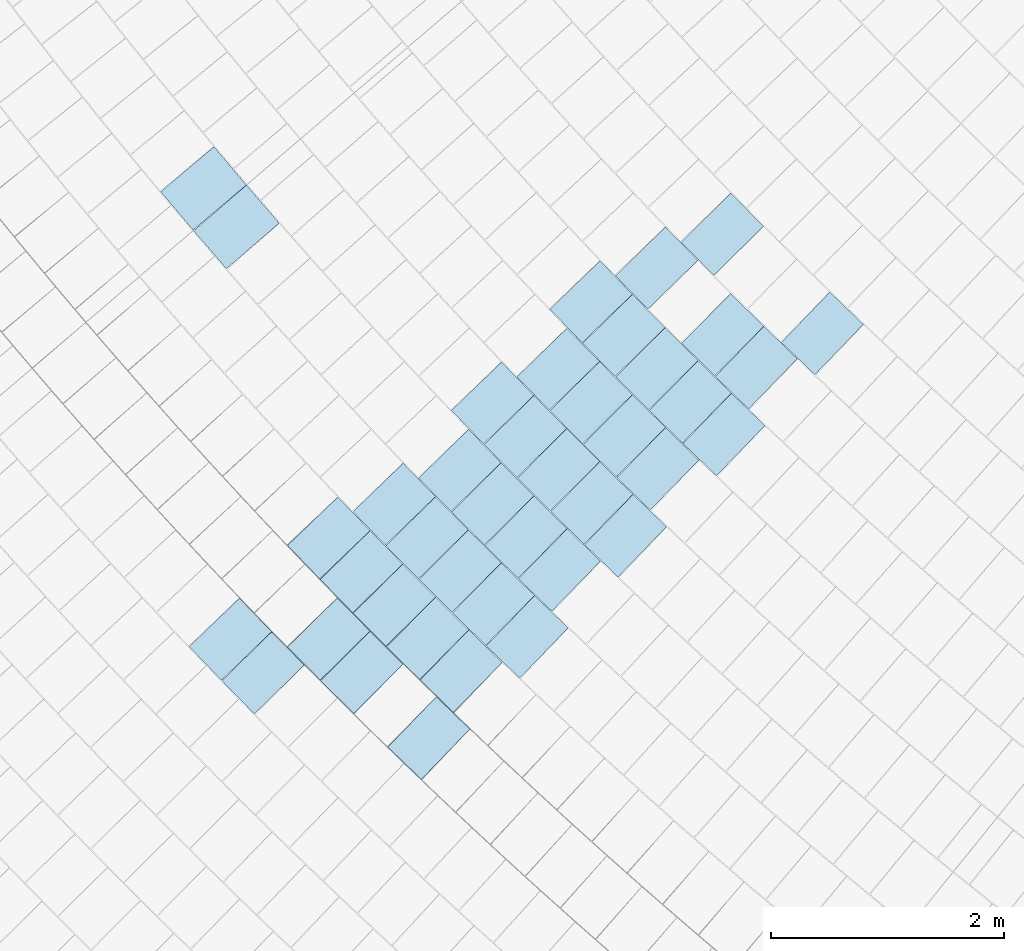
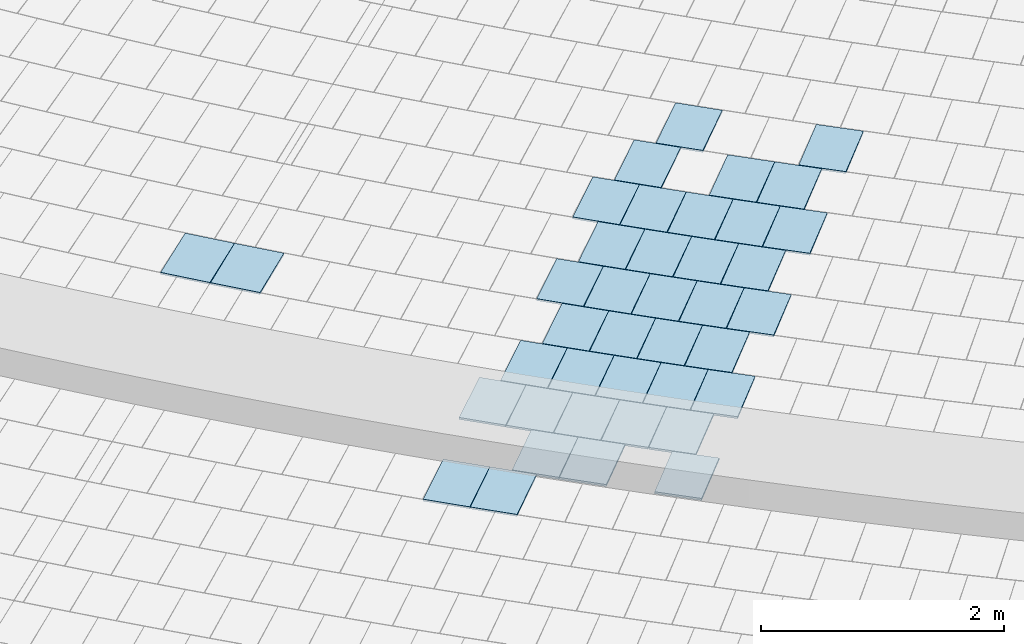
# One storey, part 6 of 438: 40 slabs.
"""IFC2X3 building model written with IfcOpenShell, lengths in millimetres."""

from ifc_helpers import new_model, entity, si_unit, converted_unit, derived_unit, direction, frame, origin, place, context, subcontext, project, spatial, polyline, outline, extrude, material, layer, layer_set, layer_usage, type_object, element, save


model = new_model("IFC2X3")

# Units and contexts
model_context = context("Model", 3, precision=0.01, world=origin(), true_north=direction((6.123031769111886e-17, 1.0)))
body_context = subcontext(model_context, "Body", "Model", "MODEL_VIEW")
ifc_project = project(units=[si_unit("LENGTHUNIT", "METRE", prefix="MILLI"), si_unit("AREAUNIT", "SQUARE_METRE"), si_unit("VOLUMEUNIT", "CUBIC_METRE"), converted_unit("PLANEANGLEUNIT", "DEGREE", entity("IfcRatioMeasure", 0.017453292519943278), si_unit("PLANEANGLEUNIT", "RADIAN"), dimensions=[0, 0, 0, 0, 0, 0, 0]), si_unit("MASSUNIT", "GRAM", prefix="KILO"), derived_unit("MASSDENSITYUNIT", [(si_unit("MASSUNIT", "GRAM", prefix="KILO"), 1), (si_unit("LENGTHUNIT", "METRE"), -3)]), derived_unit("MOMENTOFINERTIAUNIT", [(si_unit("LENGTHUNIT", "METRE"), 4)]), si_unit("TIMEUNIT", "SECOND"), si_unit("FREQUENCYUNIT", "HERTZ"), si_unit("THERMODYNAMICTEMPERATUREUNIT", "DEGREE_CELSIUS"), derived_unit("THERMALTRANSMITTANCEUNIT", [(si_unit("MASSUNIT", "GRAM", prefix="KILO"), 1), (si_unit("THERMODYNAMICTEMPERATUREUNIT", "KELVIN"), -1), (si_unit("TIMEUNIT", "SECOND"), -3)]), derived_unit("THERMALCONDUCTANCEUNIT", [(si_unit("MASSUNIT", "GRAM", prefix="KILO"), 1), (si_unit("LENGTHUNIT", "METRE"), 1), (si_unit("THERMODYNAMICTEMPERATUREUNIT", "KELVIN"), -1), (si_unit("TIMEUNIT", "SECOND"), -3)]), derived_unit("VOLUMETRICFLOWRATEUNIT", [(si_unit("LENGTHUNIT", "METRE"), 3), (si_unit("TIMEUNIT", "SECOND"), -1)]), derived_unit("MASSFLOWRATEUNIT", [(si_unit("MASSUNIT", "GRAM", prefix="KILO"), 1), (si_unit("TIMEUNIT", "SECOND"), -1)]), derived_unit("ROTATIONALFREQUENCYUNIT", [(si_unit("TIMEUNIT", "SECOND"), -1)]), si_unit("ELECTRICCURRENTUNIT", "AMPERE"), si_unit("ELECTRICVOLTAGEUNIT", "VOLT"), si_unit("POWERUNIT", "WATT"), converted_unit("FORCEUNIT", "KIP", entity("IfcRatioMeasure", 2.088543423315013e-05), si_unit("FORCEUNIT", "NEWTON"), dimensions=[1, 1, -2, 0, 0, 0, 0]), si_unit("ILLUMINANCEUNIT", "LUX"), si_unit("LUMINOUSFLUXUNIT", "LUMEN"), si_unit("LUMINOUSINTENSITYUNIT", "CANDELA"), derived_unit("USERDEFINED", [(si_unit("MASSUNIT", "GRAM", prefix="KILO"), -1), (si_unit("LENGTHUNIT", "METRE"), -2), (si_unit("TIMEUNIT", "SECOND"), 3), (si_unit("LUMINOUSFLUXUNIT", "LUMEN"), 1)]), derived_unit("USERDEFINED", [(si_unit("MASSUNIT", "GRAM", prefix="KILO"), 1), (si_unit("LENGTHUNIT", "METRE"), 3), (si_unit("TIMEUNIT", "SECOND"), -3), (si_unit("ELECTRICCURRENTUNIT", "AMPERE"), -2)]), derived_unit("USERDEFINED", [(si_unit("LENGTHUNIT", "METRE"), 2), (si_unit("TIMEUNIT", "SECOND"), -2)]), derived_unit("SOUNDPOWERUNIT", [(si_unit("MASSUNIT", "GRAM", prefix="KILO"), 1), (si_unit("LENGTHUNIT", "METRE"), 2), (si_unit("TIMEUNIT", "SECOND"), -3)]), derived_unit("SOUNDPRESSUREUNIT", [(si_unit("MASSUNIT", "GRAM", prefix="KILO"), 1), (si_unit("LENGTHUNIT", "METRE"), -1), (si_unit("TIMEUNIT", "SECOND"), -2)]), derived_unit("LINEARVELOCITYUNIT", [(si_unit("LENGTHUNIT", "METRE"), 1), (si_unit("TIMEUNIT", "SECOND"), -1)]), si_unit("PRESSUREUNIT", "PASCAL"), derived_unit("USERDEFINED", [(si_unit("LENGTHUNIT", "METRE"), -2), (si_unit("MASSUNIT", "GRAM", prefix="KILO"), 1), (si_unit("TIMEUNIT", "SECOND"), -2)]), derived_unit("LINEARFORCEUNIT", [(si_unit("MASSUNIT", "GRAM", prefix="KILO"), 1), (si_unit("LENGTHUNIT", "METRE"), 1), (si_unit("TIMEUNIT", "SECOND"), -2), (si_unit("LENGTHUNIT", "METRE"), -1)]), derived_unit("PLANARFORCEUNIT", [(si_unit("MASSUNIT", "GRAM", prefix="KILO"), 1), (si_unit("LENGTHUNIT", "METRE"), 1), (si_unit("TIMEUNIT", "SECOND"), -2), (si_unit("LENGTHUNIT", "METRE"), -2)]), derived_unit("SPECIFICHEATCAPACITYUNIT", [(si_unit("LENGTHUNIT", "METRE"), 2), (si_unit("TIMEUNIT", "SECOND"), -2), (si_unit("THERMODYNAMICTEMPERATUREUNIT", "KELVIN"), -1)]), derived_unit("VAPORPERMEABILITYUNIT", [(si_unit("TIMEUNIT", "SECOND"), 1), (si_unit("LENGTHUNIT", "METRE"), -1)]), derived_unit("DYNAMICVISCOSITYUNIT", [(si_unit("MASSUNIT", "GRAM", prefix="KILO"), 1), (si_unit("LENGTHUNIT", "METRE"), -1), (si_unit("TIMEUNIT", "SECOND"), -1)]), derived_unit("THERMALEXPANSIONCOEFFICIENTUNIT", [(si_unit("THERMODYNAMICTEMPERATUREUNIT", "KELVIN"), -1)])], contexts=[model_context])

# Site, building, storey
site_placement = place(None, frame((0.0, 0.0, 0.0), z_axis=(0.0, 0.0, 1.0), x_axis=(0.8191520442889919, 0.5735764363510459, 0.0)))
site = spatial("IfcSite", under=ifc_project, at=site_placement, Name="Default", CompositionType="ELEMENT")
building_placement = place(site_placement, origin())
building = spatial("IfcBuilding", under=site, at=building_placement, CompositionType="ELEMENT")
storey_placement = place(building_placement, origin())
storey = spatial("IfcBuildingStorey", under=building, at=storey_placement, Name="PLAN", CompositionType="ELEMENT", Elevation=0.0)

# Slabs
ifc_material = material(Name="Paint-01")
ifc_layer = layer(ifc_material, 20.00000000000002)
ifc_layer_set = layer_set([ifc_layer], Name="Floor:Slab-179:1000")
ifc_layer_usage = layer_usage(ifc_layer_set, "AXIS3", "POSITIVE", 0.0)
slab_type = type_object("IfcSlabType", Name="Floor:Slab-179:1000", PredefinedType="FLOOR", material=ifc_layer_set)
slab_1_placement = place(storey_placement, origin())
element("IfcSlab", 1, at=slab_1_placement, inside=storey, type_object=slab_type, material=ifc_layer_usage, Name="Floor:Slab-179:1000", ObjectType="Floor:Slab-179:1000", PredefinedType="FLOOR", context=body_context, shape_type="SweptSolid", body=[
    extrude(outline(polyline([(-300.0, -215.73772442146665), (299.9999975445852, -215.73772442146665), (300.0, 215.73772442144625), (-299.9999975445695, 215.7377244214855), (-300.0, -215.73772442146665)])), frame((-86225.26986936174, -72148.73846411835, 520.0), z_axis=(0.0, 0.0, -1.0), x_axis=(0.9958690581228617, 0.09080098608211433, 0.0)), (0.0, 0.0, 1.0), 20.000000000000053),
])
slab_2_placement = place(storey_placement, origin())
element("IfcSlab", 2, at=slab_2_placement, inside=storey, type_object=slab_type, material=ifc_layer_usage, Name="Floor:Slab-179:1000", ObjectType="Floor:Slab-179:1000", PredefinedType="FLOOR", context=body_context, shape_type="SweptSolid", body=[
    extrude(outline(polyline([(-200.0000045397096, -299.9999986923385), (200.0000013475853, -299.9999986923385), (200.0000045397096, 299.9999986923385), (-200.00000134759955, 299.99999869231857), (-200.0000045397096, -299.9999986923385)])), frame((-82807.1541595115, -75021.93635271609, 520.0), z_axis=(0.0, 0.0, -1.0), x_axis=(0.1642521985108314, -0.9864183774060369, 0.0)), (0.0, 0.0, 1.0), 20.000000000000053),
])
slab_3_placement = place(storey_placement, origin())
element("IfcSlab", 3, at=slab_3_placement, inside=storey, type_object=slab_type, material=ifc_layer_usage, Name="Floor:Slab-179:1000", ObjectType="Floor:Slab-179:1000", PredefinedType="FLOOR", context=body_context, shape_type="SweptSolid", body=[
    extrude(outline(polyline([(-300.0, -200.00000294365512), (299.9999976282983, -200.00000294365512), (300.0, 200.00000294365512), (-299.999997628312, 200.0000029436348), (-300.0, -200.00000294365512)])), frame((-82591.97574392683, -76210.99192174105, 520.0), z_axis=(0.0, 0.0, -1.0), x_axis=(0.9814223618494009, 0.19185970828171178, 0.0)), (0.0, 0.0, 1.0), 20.000000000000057),
])
slab_4_placement = place(storey_placement, origin())
element("IfcSlab", 4, at=slab_4_placement, inside=storey, type_object=slab_type, material=ifc_layer_usage, Name="Floor:Slab-179:1000", ObjectType="Floor:Slab-179:1000", PredefinedType="FLOOR", context=body_context, shape_type="SweptSolid", body=[
    extrude(outline(polyline([(-200.00000453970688, -299.9999986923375), (200.00000134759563, -299.9999986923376), (200.0000045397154, 299.9999986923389), (-200.0000013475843, 299.99999869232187), (-200.00000453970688, -299.9999986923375)])), frame((-83434.29083154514, -74936.57759737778, 520.0), z_axis=(0.0, 0.0, -1.0), x_axis=(0.1600225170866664, -0.9871133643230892, 0.0)), (0.0, 0.0, 1.0), 19.999999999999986),
])
slab_5_placement = place(storey_placement, origin())
element("IfcSlab", 5, at=slab_5_placement, inside=storey, type_object=slab_type, material=ifc_layer_usage, Name="Floor:Slab-179:1000", ObjectType="Floor:Slab-179:1000", PredefinedType="FLOOR", context=body_context, shape_type="SweptSolid", body=[
    extrude(outline(polyline([(-200.00000453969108, -299.9999986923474), (200.00000134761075, -299.9999986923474), (200.000004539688, 299.99999869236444), (-200.00000134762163, 299.99999869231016), (-200.00000453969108, -299.9999986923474)])), frame((-83298.05482873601, -75730.53642324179, 520.0), z_axis=(0.0, 0.0, -1.0), x_axis=(0.1782013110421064, -0.983994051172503, 0.0)), (0.0, 0.0, 1.0), 20.000000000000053),
])
slab_6_placement = place(storey_placement, origin())
element("IfcSlab", 6, at=slab_6_placement, inside=storey, type_object=slab_type, material=ifc_layer_usage, Name="Floor:Slab-179:1000", ObjectType="Floor:Slab-179:1000", PredefinedType="FLOOR", context=body_context, shape_type="SweptSolid", body=[
    extrude(outline(polyline([(-200.0000045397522, -299.9999986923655), (200.0000013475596, -299.99999869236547), (200.00000453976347, 299.9999986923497), (-200.000001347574, 299.9999986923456), (-200.0000045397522, -299.9999986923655)])), frame((-84060.6298183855, -74851.26640552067, 520.0), z_axis=(0.0, 0.0, -1.0), x_axis=(0.1559094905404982, -0.9877713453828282, 0.0)), (0.0, 0.0, 1.0), 20.000000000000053),
])
slab_7_placement = place(storey_placement, origin())
element("IfcSlab", 7, at=slab_7_placement, inside=storey, type_object=slab_type, material=ifc_layer_usage, Name="Floor:Slab-179:1000", ObjectType="Floor:Slab-179:1000", PredefinedType="FLOOR", context=body_context, shape_type="SweptSolid", body=[
    extrude(outline(polyline([(-200.00000453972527, -299.99999869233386), (200.00000134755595, -299.99999869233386), (200.0000045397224, 299.9999986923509), (-200.00000134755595, 299.99999869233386), (-200.00000453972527, -299.99999869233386)])), frame((-83996.03293466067, -75248.7763406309, 520.0), z_axis=(0.0, 0.0, -1.0), x_axis=(0.16488667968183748, -0.9863125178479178, 0.0)), (0.0, 0.0, 1.0), 20.000000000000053),
])
slab_8_placement = place(storey_placement, origin())
element("IfcSlab", 8, at=slab_8_placement, inside=storey, type_object=slab_type, material=ifc_layer_usage, Name="Floor:Slab-179:1000", ObjectType="Floor:Slab-179:1000", PredefinedType="FLOOR", context=body_context, shape_type="SweptSolid", body=[
    extrude(outline(polyline([(-200.00000453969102, -299.99999869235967), (200.00000134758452, -299.99999869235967), (200.00000453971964, 299.99999869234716), (-200.0000013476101, 299.9999986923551), (-200.00000453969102, -299.99999869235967)])), frame((-83927.82342728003, -75645.6823358, 520.0), z_axis=(0.0, 0.0, -1.0), x_axis=(0.1738502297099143, -0.9847721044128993, 0.0)), (0.0, 0.0, 1.0), 19.99999999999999),
])
slab_9_placement = place(storey_placement, origin())
element("IfcSlab", 9, at=slab_9_placement, inside=storey, type_object=slab_type, material=ifc_layer_usage, Name="Floor:Slab-179:1000", ObjectType="Floor:Slab-179:1000", PredefinedType="FLOOR", context=body_context, shape_type="SweptSolid", body=[
    extrude(outline(polyline([(-300.0, -200.00000294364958), (299.99999762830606, -200.0000029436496), (300.0, 200.00000294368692), (-299.9999976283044, 200.00000294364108), (-300.0, -200.00000294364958)])), frame((-83780.58940808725, -76437.55123615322, 520.0), z_axis=(0.0, 0.0, -1.0), x_axis=(0.9814470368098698, 0.19173344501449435, 0.0)), (0.0, 0.0, 1.0), 20.000000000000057),
])
slab_10_placement = place(storey_placement, origin())
element("IfcSlab", 10, at=slab_10_placement, inside=storey, type_object=slab_type, material=ifc_layer_usage, Name="Floor:Slab-179:1000", ObjectType="Floor:Slab-179:1000", PredefinedType="FLOOR", context=body_context, shape_type="SweptSolid", body=[
    extrude(outline(polyline([(-200.0000045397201, -299.9999986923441), (200.00000134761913, -299.9999986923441), (200.0000045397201, 299.9999986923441), (-200.00000134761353, 299.9999986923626), (-200.0000045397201, -299.9999986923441)])), frame((-84556.76090605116, -75560.69439219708, 520.0), z_axis=(0.0, 0.0, -1.0), x_axis=(0.1696134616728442, -0.9855106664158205, 0.0)), (0.0, 0.0, 1.0), 19.99999999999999),
])
slab_11_placement = place(storey_placement, origin())
element("IfcSlab", 11, at=slab_11_placement, inside=storey, type_object=slab_type, material=ifc_layer_usage, Name="Floor:Slab-179:1000", ObjectType="Floor:Slab-179:1000", PredefinedType="FLOOR", context=body_context, shape_type="SweptSolid", body=[
    extrude(outline(polyline([(-200.00000453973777, -299.9999986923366), (200.0000013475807, -299.9999986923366), (200.00000453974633, 299.999998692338), (-200.00000134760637, 299.99999869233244), (-200.00000453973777, -299.9999986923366)])), frame((-84623.2812407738, -75163.53923175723, 520.0), z_axis=(0.0, 0.0, -1.0), x_axis=(0.1607651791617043, -0.9869926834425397, 0.0)), (0.0, 0.0, 1.0), 20.000000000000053),
])
slab_12_placement = place(storey_placement, origin())
element("IfcSlab", 12, at=slab_12_placement, inside=storey, type_object=slab_type, material=ifc_layer_usage, Name="Floor:Slab-179:1000", ObjectType="Floor:Slab-179:1000", PredefinedType="FLOOR", context=body_context, shape_type="SweptSolid", body=[
    extrude(outline(polyline([(-200.00000453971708, -299.99999869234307), (200.00000134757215, -299.9999986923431), (200.00000453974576, 299.9999986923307), (-200.00000134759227, 299.99999869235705), (-200.00000453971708, -299.99999869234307)])), frame((-84486.68019198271, -75957.23678578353, 520.0), z_axis=(0.0, 0.0, -1.0), x_axis=(0.17844809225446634, -0.983949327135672, 0.0)), (0.0, 0.0, 1.0), 20.000000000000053),
])
slab_13_placement = place(storey_placement, origin())
element("IfcSlab", 13, at=slab_13_placement, inside=storey, type_object=slab_type, material=ifc_layer_usage, Name="Floor:Slab-179:1000", ObjectType="Floor:Slab-179:1000", PredefinedType="FLOOR", context=body_context, shape_type="SweptSolid", body=[
    extrude(outline(polyline([(-200.0000045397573, -299.9999986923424), (200.0000013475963, -299.99999869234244), (200.0000045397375, 299.9999986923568), (-200.00000134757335, 299.9999986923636), (-200.0000045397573, -299.9999986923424)])), frame((-85249.77183569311, -75078.21260436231, 520.0), z_axis=(0.0, 0.0, -1.0), x_axis=(0.15675133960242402, -0.9876381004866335, 0.0)), (0.0, 0.0, 1.0), 20.000000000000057),
])
slab_14_placement = place(storey_placement, origin())
element("IfcSlab", 14, at=slab_14_placement, inside=storey, type_object=slab_type, material=ifc_layer_usage, Name="Floor:Slab-179:1000", ObjectType="Floor:Slab-179:1000", PredefinedType="FLOOR", context=body_context, shape_type="SweptSolid", body=[
    extrude(outline(polyline([(-200.00000453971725, -299.99999869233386), (200.00000134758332, -299.99999869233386), (200.0000045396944, 299.9999986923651), (-200.0000013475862, 299.99999869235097), (-200.00000453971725, -299.99999869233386)])), frame((-85184.89629707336, -75475.60335517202, 520.0), z_axis=(0.0, 0.0, -1.0), x_axis=(0.16548712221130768, -0.9862119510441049, 0.0)), (0.0, 0.0, 1.0), 20.000000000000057),
])
slab_15_placement = place(storey_placement, origin())
element("IfcSlab", 15, at=slab_15_placement, inside=storey, type_object=slab_type, material=ifc_layer_usage, Name="Floor:Slab-179:1000", ObjectType="Floor:Slab-179:1000", PredefinedType="FLOOR", context=body_context, shape_type="SweptSolid", body=[
    extrude(outline(polyline([(-200.00000453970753, -299.9999986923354), (200.0000013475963, -299.9999986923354), (200.00000453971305, 299.999998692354), (-200.00000134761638, 299.9999986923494), (-200.00000453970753, -299.9999986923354)])), frame((-85116.50585820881, -75872.40430301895, 520.0), z_axis=(0.0, 0.0, -1.0), x_axis=(0.17420993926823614, -0.9847085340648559, 0.0)), (0.0, 0.0, 1.0), 20.000000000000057),
])
slab_16_placement = place(storey_placement, origin())
element("IfcSlab", 16, at=slab_16_placement, inside=storey, type_object=slab_type, material=ifc_layer_usage, Name="Floor:Slab-179:1000", ObjectType="Floor:Slab-179:1000", PredefinedType="FLOOR", context=body_context, shape_type="SweptSolid", body=[
    extrude(outline(polyline([(-300.0, -200.00000294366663), (299.99999762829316, -200.00000294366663), (300.0, 200.00000294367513), (-299.9999976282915, 200.0000029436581), (-300.0, -200.00000294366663)])), frame((-84969.20198720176, -76664.11248695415, 520.0), z_axis=(0.0, 0.0, -1.0), x_axis=(0.9814703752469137, 0.1916139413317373, 0.0)), (0.0, 0.0, 1.0), 20.000000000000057),
])
slab_17_placement = place(storey_placement, origin())
element("IfcSlab", 17, at=slab_17_placement, inside=storey, type_object=slab_type, material=ifc_layer_usage, Name="Floor:Slab-179:1000", ObjectType="Floor:Slab-179:1000", PredefinedType="FLOOR", context=body_context, shape_type="SweptSolid", body=[
    extrude(outline(polyline([(-215.73772601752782, -299.9999986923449), (215.73772282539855, -299.9999986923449), (215.73772601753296, 299.99999869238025), (-215.73772282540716, 299.999998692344), (-215.73772601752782, -299.9999986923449)])), frame((-86183.62996440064, -72581.24127451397, 520.0), z_axis=(0.0, 0.0, -1.0), x_axis=(0.100863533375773, -0.9949002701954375, 0.0)), (0.0, 0.0, 1.0), 19.999999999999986),
])
slab_18_placement = place(storey_placement, origin())
element("IfcSlab", 18, at=slab_18_placement, inside=storey, type_object=slab_type, material=ifc_layer_usage, Name="Floor:Slab-179:1000", ObjectType="Floor:Slab-179:1000", PredefinedType="FLOOR", context=body_context, shape_type="SweptSolid", body=[
    extrude(outline(polyline([(-200.0000045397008, -299.9999986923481), (200.00000134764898, -299.9999986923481), (200.0000045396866, 299.9999986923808), (-200.00000134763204, 299.99999869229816), (-200.0000045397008, -299.9999986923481)])), frame((-85812.26104829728, -75390.41655672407, 520.0), z_axis=(0.0, 0.0, -1.0), x_axis=(0.16146702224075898, -0.9868781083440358, 0.0)), (0.0, 0.0, 1.0), 20.000000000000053),
])
slab_19_placement = place(storey_placement, origin())
element("IfcSlab", 19, at=slab_19_placement, inside=storey, type_object=slab_type, material=ifc_layer_usage, Name="Floor:Slab-179:1000", ObjectType="Floor:Slab-179:1000", PredefinedType="FLOOR", context=body_context, shape_type="SweptSolid", body=[
    extrude(outline(polyline([(-200.00000453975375, -299.99999869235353), (200.00000134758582, -299.9999986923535), (200.00000453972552, 299.9999986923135), (-200.0000013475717, 299.99999869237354), (-200.00000453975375, -299.99999869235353)])), frame((-85745.51712052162, -75787.46230494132, 520.0), z_axis=(0.0, 0.0, -1.0), x_axis=(0.1700806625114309, -0.9854301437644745, 0.0)), (0.0, 0.0, 1.0), 20.000000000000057),
])
slab_20_placement = place(storey_placement, origin())
element("IfcSlab", 20, at=slab_20_placement, inside=storey, type_object=slab_type, material=ifc_layer_usage, Name="Floor:Slab-179:1000", ObjectType="Floor:Slab-179:1000", PredefinedType="FLOOR", context=body_context, shape_type="SweptSolid", body=[
    extrude(outline(polyline([(-200.0000045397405, -299.9999986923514), (200.00000134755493, -299.9999986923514), (200.00000453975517, 299.99999869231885), (-200.0000013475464, 299.99999869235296), (-200.0000045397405, -299.9999986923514)])), frame((-85675.3077777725, -76183.90993863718, 520.0), z_axis=(0.0, 0.0, -1.0), x_axis=(0.1786813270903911, -0.9839069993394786, 0.0)), (0.0, 0.0, 1.0), 20.000000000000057),
])
slab_21_placement = place(storey_placement, origin())
element("IfcSlab", 21, at=slab_21_placement, inside=storey, type_object=slab_type, material=ifc_layer_usage, Name="Floor:Slab-179:1000", ObjectType="Floor:Slab-179:1000", PredefinedType="FLOOR", context=body_context, shape_type="SweptSolid", body=[
    extrude(outline(polyline([(-200.0000045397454, -299.99999869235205), (200.00000134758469, -299.9999986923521), (200.000004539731, 299.99999869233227), (-200.00000134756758, 299.99999869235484), (-200.0000045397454, -299.99999869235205)])), frame((-86438.88499998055, -75305.14076651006, 520.0), z_axis=(0.0, 0.0, -1.0), x_axis=(0.1575491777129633, -0.9875111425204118, 0.0)), (0.0, 0.0, 1.0), 20.000000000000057),
])
slab_22_placement = place(storey_placement, origin())
element("IfcSlab", 22, at=slab_22_placement, inside=storey, type_object=slab_type, material=ifc_layer_usage, Name="Floor:Slab-179:1000", ObjectType="Floor:Slab-179:1000", PredefinedType="FLOOR", context=body_context, shape_type="SweptSolid", body=[
    extrude(outline(polyline([(-200.00000453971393, -299.9999986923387), (200.00000134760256, -299.9999986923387), (200.00000453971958, 299.99999869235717), (-200.00000134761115, 299.9999986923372), (-200.00000453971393, -299.9999986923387)])), frame((-86373.74546925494, -75702.41836356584, 520.0), z_axis=(0.0, 0.0, -1.0), x_axis=(0.16605619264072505, -0.9861162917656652, 0.0)), (0.0, 0.0, 1.0), 20.000000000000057),
])
slab_23_placement = place(storey_placement, origin())
element("IfcSlab", 23, at=slab_23_placement, inside=storey, type_object=slab_type, material=ifc_layer_usage, Name="Floor:Slab-179:1000", ObjectType="Floor:Slab-179:1000", PredefinedType="FLOOR", context=body_context, shape_type="SweptSolid", body=[
    extrude(outline(polyline([(-200.00000453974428, -299.9999986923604), (200.00000134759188, -299.9999986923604), (200.00000453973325, 299.9999986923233), (-200.00000134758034, 299.9999986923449), (-200.00000453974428, -299.9999986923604)])), frame((-86305.18361565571, -76099.11966154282, 520.0), z_axis=(0.0, 0.0, -1.0), x_axis=(0.17455086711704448, -0.9846481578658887, 0.0)), (0.0, 0.0, 1.0), 20.000000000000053),
])
slab_24_placement = place(storey_placement, origin())
element("IfcSlab", 24, at=slab_24_placement, inside=storey, type_object=slab_type, material=ifc_layer_usage, Name="Floor:Slab-179:1000", ObjectType="Floor:Slab-179:1000", PredefinedType="FLOOR", context=body_context, shape_type="SweptSolid", body=[
    extrude(outline(polyline([(-300.0, -200.00000294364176), (299.99999762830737, -200.0000029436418), (300.0, 200.00000294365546), (-299.999997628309, 200.00000294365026), (-300.0, -200.00000294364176)])), frame((-86157.8135739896, -76890.67548440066, 520.0), z_axis=(0.0, 0.0, -1.0), x_axis=(0.9814924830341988, 0.1915006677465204, 0.0)), (0.0, 0.0, 1.0), 19.999999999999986),
])
slab_25_placement = place(storey_placement, origin())
element("IfcSlab", 25, at=slab_25_placement, inside=storey, type_object=slab_type, material=ifc_layer_usage, Name="Floor:Slab-179:1000", ObjectType="Floor:Slab-179:1000", PredefinedType="FLOOR", context=body_context, shape_type="SweptSolid", body=[
    extrude(outline(polyline([(-300.0, -200.00000294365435), (299.9999976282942, -200.00000294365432), (300.0, 200.0000029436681), (-299.9999976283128, 200.00000294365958), (-300.0, -200.00000294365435)])), frame((-84413.04473879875, -76353.13449783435, 520.0), z_axis=(0.0, 0.0, -1.0), x_axis=(0.9823087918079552, 0.18726835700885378, 0.0)), (0.0, 0.0, 1.0), 20.000000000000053),
])
slab_26_placement = place(storey_placement, origin())
element("IfcSlab", 26, at=slab_26_placement, inside=storey, type_object=slab_type, material=ifc_layer_usage, Name="Floor:Slab-179:1000", ObjectType="Floor:Slab-179:1000", PredefinedType="FLOOR", context=body_context, shape_type="SweptSolid", body=[
    extrude(outline(polyline([(-300.0, -200.00000294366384), (299.9999976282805, -200.00000294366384), (300.0, 200.0000029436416), (-299.9999976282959, 200.00000294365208), (-300.0, -200.00000294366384)])), frame((-83224.45110163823, -76126.53978099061, 520.0), z_axis=(0.0, 0.0, -1.0), x_axis=(0.9823087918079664, 0.18726835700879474, 0.0)), (0.0, 0.0, 1.0), 19.99999999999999),
])
slab_27_placement = place(storey_placement, origin())
element("IfcSlab", 27, at=slab_27_placement, inside=storey, type_object=slab_type, material=ifc_layer_usage, Name="Floor:Slab-179:1000", ObjectType="Floor:Slab-179:1000", PredefinedType="FLOOR", context=body_context, shape_type="SweptSolid", body=[
    extrude(outline(polyline([(-300.0, -200.00000294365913), (299.9999976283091, -200.00000294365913), (300.0, 200.00000294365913), (-299.9999976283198, 200.00000294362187), (-300.0, -200.00000294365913)])), frame((-85044.60587689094, -76268.5843618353, 520.0), z_axis=(0.0, 0.0, -1.0), x_axis=(0.9831279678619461, 0.1829191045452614, 0.0)), (0.0, 0.0, 1.0), 19.99999999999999),
])
slab_28_placement = place(storey_placement, origin())
element("IfcSlab", 28, at=slab_28_placement, inside=storey, type_object=slab_type, material=ifc_layer_usage, Name="Floor:Slab-179:1000", ObjectType="Floor:Slab-179:1000", PredefinedType="FLOOR", context=body_context, shape_type="SweptSolid", body=[
    extrude(outline(polyline([(-300.0, -200.00000294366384), (299.99999762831, -200.00000294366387), (300.0, 200.00000294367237), (-299.99999762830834, 200.00000294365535), (-300.0, -200.00000294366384)])), frame((-85601.6383759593, -76579.72921467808, 520.0), z_axis=(0.0, 0.0, -1.0), x_axis=(0.9823087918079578, 0.18726835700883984, 0.0)), (0.0, 0.0, 1.0), 19.999999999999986),
])
slab_29_placement = place(storey_placement, origin())
element("IfcSlab", 29, at=slab_29_placement, inside=storey, type_object=slab_type, material=ifc_layer_usage, Name="Floor:Slab-179:1000", ObjectType="Floor:Slab-179:1000", PredefinedType="FLOOR", context=body_context, shape_type="SweptSolid", body=[
    extrude(outline(polyline([(-300.0, -200.0000029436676), (299.999997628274, -200.00000294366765), (300.0, 200.0000029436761), (-299.99999762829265, 200.00000294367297), (-300.0, -200.0000029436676)])), frame((-86233.20453390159, -76495.21518203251, 520.0), z_axis=(0.0, 0.0, -1.0), x_axis=(0.9831068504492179, 0.18303256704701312, 0.0)), (0.0, 0.0, 1.0), 19.99999999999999),
])
slab_30_placement = place(storey_placement, origin())
element("IfcSlab", 30, at=slab_30_placement, inside=storey, type_object=slab_type, material=ifc_layer_usage, Name="Floor:Slab-179:1000", ObjectType="Floor:Slab-179:1000", PredefinedType="FLOOR", context=body_context, shape_type="SweptSolid", body=[
    extrude(outline(polyline([(-300.0, -200.00000294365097), (299.9999976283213, -200.00000294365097), (300.0, 200.0000029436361), (-299.99999762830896, 200.00000294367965), (-300.0, -200.00000294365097)])), frame((-83856.00693795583, -76041.95156213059, 520.0), z_axis=(0.0, 0.0, -1.0), x_axis=(0.9831502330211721, 0.1827993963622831, 0.0)), (0.0, 0.0, 1.0), 20.000000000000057),
])
slab_31_placement = place(storey_placement, origin())
element("IfcSlab", 31, at=slab_31_placement, inside=storey, type_object=slab_type, material=ifc_layer_usage, Name="Floor:Slab-179:1000", ObjectType="Floor:Slab-179:1000", PredefinedType="FLOOR", context=body_context, shape_type="SweptSolid", body=[
    extrude(outline(polyline([(-300.0, -200.00000294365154), (299.9999976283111, -200.00000294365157), (300.0, 200.00000294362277), (-299.9999976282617, 200.0000029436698), (-300.0, -200.00000294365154)])), frame((-86790.09394947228, -76807.0480942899, 520.0), z_axis=(0.0, 0.0, -1.0), x_axis=(0.9823058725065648, 0.1872836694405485, 0.0)), (0.0, 0.0, 1.0), 20.000000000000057),
])
slab_32_placement = place(storey_placement, origin())
element("IfcSlab", 32, at=slab_32_placement, inside=storey, type_object=slab_type, material=ifc_layer_usage, Name="Floor:Slab-179:1000", ObjectType="Floor:Slab-179:1000", PredefinedType="FLOOR", context=body_context, shape_type="SweptSolid", body=[
    extrude(outline(polyline([(-300.0, -200.00000294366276), (299.9999976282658, -200.00000294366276), (300.0, 200.0000029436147), (-299.99999762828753, 200.00000294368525), (-300.0, -200.00000294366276)])), frame((-86863.80170184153, -76411.30437461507, 520.0), z_axis=(0.0, 0.0, -1.0), x_axis=(0.9838640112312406, 0.17891787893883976, 0.0)), (0.0, 0.0, 1.0), 19.99999999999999),
])
slab_33_placement = place(storey_placement, origin())
element("IfcSlab", 33, at=slab_33_placement, inside=storey, type_object=slab_type, material=ifc_layer_usage, Name="Floor:Slab-179:1000", ObjectType="Floor:Slab-179:1000", PredefinedType="FLOOR", context=body_context, shape_type="SweptSolid", body=[
    extrude(outline(polyline([(-300.0, -200.00000294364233), (299.99999762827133, -200.00000294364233), (300.0, 200.00000294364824), (-299.99999762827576, 200.00000294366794), (-300.0, -200.00000294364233)])), frame((-86934.13917298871, -76014.94776173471, 520.0), z_axis=(0.0, 0.0, -1.0), x_axis=(0.9853509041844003, 0.1705391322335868, 0.0)), (0.0, 0.0, 1.0), 19.999999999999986),
])
slab_34_placement = place(storey_placement, origin())
element("IfcSlab", 34, at=slab_34_placement, inside=storey, type_object=slab_type, material=ifc_layer_usage, Name="Floor:Slab-179:1000", ObjectType="Floor:Slab-179:1000", PredefinedType="FLOOR", context=body_context, shape_type="SweptSolid", body=[
    extrude(outline(polyline([(-300.0, -200.00000294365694), (299.99999762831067, -200.00000294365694), (300.0, 200.0000029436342), (-299.99999762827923, 200.00000294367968), (-300.0, -200.00000294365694)])), frame((-87001.10126947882, -75618.00695751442, 520.0), z_axis=(0.0, 0.0, -1.0), x_axis=(0.9867664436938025, 0.16214803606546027, 0.0)), (0.0, 0.0, 1.0), 20.000000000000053),
])
slab_35_placement = place(storey_placement, origin())
element("IfcSlab", 35, at=slab_35_placement, inside=storey, type_object=slab_type, material=ifc_layer_usage, Name="Floor:Slab-179:1000", ObjectType="Floor:Slab-179:1000", PredefinedType="FLOOR", context=body_context, shape_type="SweptSolid", body=[
    extrude(outline(polyline([(-300.0, -200.00000294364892), (299.99999762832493, -200.00000294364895), (300.0, 200.00000294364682), (-299.9999976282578, 200.0000029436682), (-300.0, -200.00000294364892)])), frame((-87064.68314230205, -75220.51070612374, 520.0), z_axis=(0.0, 0.0, -1.0), x_axis=(0.9881105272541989, 0.15374519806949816, 0.0)), (0.0, 0.0, 1.0), 19.99999999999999),
])
slab_36_placement = place(storey_placement, origin())
element("IfcSlab", 36, at=slab_36_placement, inside=storey, type_object=slab_type, material=ifc_layer_usage, Name="Floor:Slab-179:1000", ObjectType="Floor:Slab-179:1000", PredefinedType="FLOOR", context=body_context, shape_type="SweptSolid", body=[
    extrude(outline(polyline([(-300.0, -200.00000294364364), (299.9999976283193, -200.00000294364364), (300.0, 200.00000294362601), (-299.99999762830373, 200.00000294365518), (-300.0, -200.00000294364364)])), frame((-87493.72648417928, -76326.56403719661, 520.0), z_axis=(0.0, 0.0, -1.0), x_axis=(0.9845880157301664, 0.17488979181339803, 0.0)), (0.0, 0.0, 1.0), 20.000000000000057),
])
slab_37_placement = place(storey_placement, origin())
element("IfcSlab", 37, at=slab_37_placement, inside=storey, type_object=slab_type, material=ifc_layer_usage, Name="Floor:Slab-179:1000", ObjectType="Floor:Slab-179:1000", PredefinedType="FLOOR", context=body_context, shape_type="SweptSolid", body=[
    extrude(outline(polyline([(-300.0, -200.00000294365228), (299.99999762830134, -200.00000294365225), (300.0, 200.0000029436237), (-299.99999762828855, 200.00000294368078), (-300.0, -200.00000294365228)])), frame((-87562.45714800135, -75929.95846812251, 520.0), z_axis=(0.0, 0.0, -1.0), x_axis=(0.9860225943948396, 0.16661165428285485, 0.0)), (0.0, 0.0, 1.0), 20.000000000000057),
])
slab_38_placement = place(storey_placement, origin())
element("IfcSlab", 38, at=slab_38_placement, inside=storey, type_object=slab_type, material=ifc_layer_usage, Name="Floor:Slab-179:1000", ObjectType="Floor:Slab-179:1000", PredefinedType="FLOOR", context=body_context, shape_type="SweptSolid", body=[
    extrude(outline(polyline([(-200.0000045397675, -299.9999986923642), (200.00000134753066, -299.99999869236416), (200.00000453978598, 299.9999986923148), (-200.00000134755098, 299.9999986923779), (-200.0000045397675, -299.9999986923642)])), frame((-87346.28133664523, -77117.97291918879, 520.0), z_axis=(0.0, 0.0, -1.0), x_axis=(0.19140844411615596, -0.9815104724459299, 0.0)), (0.0, 0.0, 1.0), 20.000000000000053),
])
slab_39_placement = place(storey_placement, origin())
element("IfcSlab", 39, at=slab_39_placement, inside=storey, type_object=slab_type, material=ifc_layer_usage, Name="Floor:Slab-179:1000", ObjectType="Floor:Slab-179:1000", PredefinedType="FLOOR", context=body_context, shape_type="SweptSolid", body=[
    extrude(outline(polyline([(-300.0, -200.00000294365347), (299.99999762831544, -200.0000029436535), (300.0, 200.00000294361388), (-299.9999976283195, 200.00000294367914), (-300.0, -200.00000294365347)])), frame((-88253.90778269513, -75447.48958648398, 520.0), z_axis=(0.0, 0.0, -1.0), x_axis=(0.9879788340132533, 0.15458920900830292, 0.0)), (0.0, 0.0, 1.0), 19.99999999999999),
])
slab_40_placement = place(storey_placement, origin())
element("IfcSlab", 40, at=slab_40_placement, inside=storey, type_object=slab_type, material=ifc_layer_usage, Name="Floor:Slab-179:1000", ObjectType="Floor:Slab-179:1000", PredefinedType="FLOOR", context=body_context, shape_type="SweptSolid", body=[
    extrude(outline(polyline([(-300.0, -200.00000294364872), (299.9999976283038, -200.00000294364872), (300.0, 200.00000294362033), (-299.9999976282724, 200.00000294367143), (-300.0, -200.00000294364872)])), frame((-88190.03895882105, -75844.8751256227, 520.0), z_axis=(0.0, 0.0, -1.0), x_axis=(0.9866623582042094, 0.16278019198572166, 0.0)), (0.0, 0.0, 1.0), 20.000000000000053),
])

save(model, "model.ifc")
